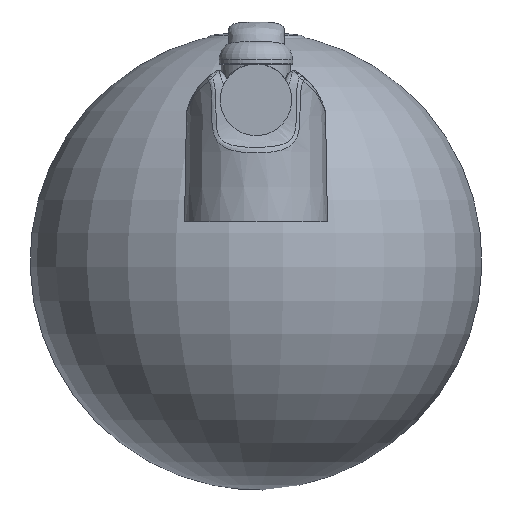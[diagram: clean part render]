
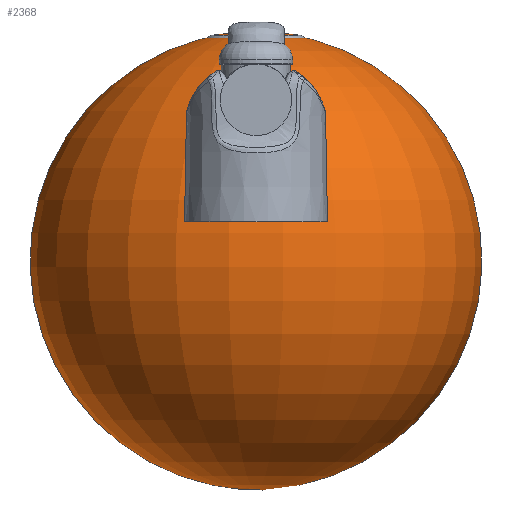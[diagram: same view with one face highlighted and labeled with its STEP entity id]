
A CAD part, front view. The second image highlights one B-rep face of the part: STEP entity #2368.
In plain terms, the highlighted toroidal (fillet/blend) face has major radius 1.046 mm and minor radius 73.572 mm.
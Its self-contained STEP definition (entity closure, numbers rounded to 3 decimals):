
#674 = CARTESIAN_POINT ( 'NONE',  ( 0., 180.715, -12.344 ) ) ;
#1727 = ORIENTED_EDGE ( 'NONE', *, *, #4831, .T. ) ;
#2061 = VERTEX_POINT ( 'NONE', #4244 ) ;
#2368 = ADVANCED_FACE ( 'NONE', ( #7764 ), #8609, .T. ) ;
#2901 = DIRECTION ( 'NONE',  ( 0., 0., 1. ) ) ;
#2927 = DIRECTION ( 'NONE',  ( 0., 0., 1. ) ) ;
#3297 = CIRCLE ( 'NONE', #8332, 14.326 ) ;
#4244 = CARTESIAN_POINT ( 'NONE',  ( 14.326, 180.715, 60.019 ) ) ;
#4831 = EDGE_CURVE ( 'NONE', #2061, #2061, #3297, .T. ) ;
#7140 = CARTESIAN_POINT ( 'NONE',  ( 0., 180.715, 60.019 ) ) ;
#7762 = DIRECTION ( 'NONE',  ( 1., 0., 0. ) ) ;
#7764 = FACE_OUTER_BOUND ( 'NONE', #8862, .T. ) ;
#7784 = DIRECTION ( 'NONE',  ( 1., 0., 0. ) ) ;
#8332 = AXIS2_PLACEMENT_3D ( 'NONE', #7140, #2901, #7762 ) ;
#8609 = TOROIDAL_SURFACE ( 'NONE', #8964, 1.046, 73.572 ) ;
#8862 = EDGE_LOOP ( 'NONE', ( #1727 ) ) ;
#8964 = AXIS2_PLACEMENT_3D ( 'NONE', #674, #2927, #7784 ) ;
